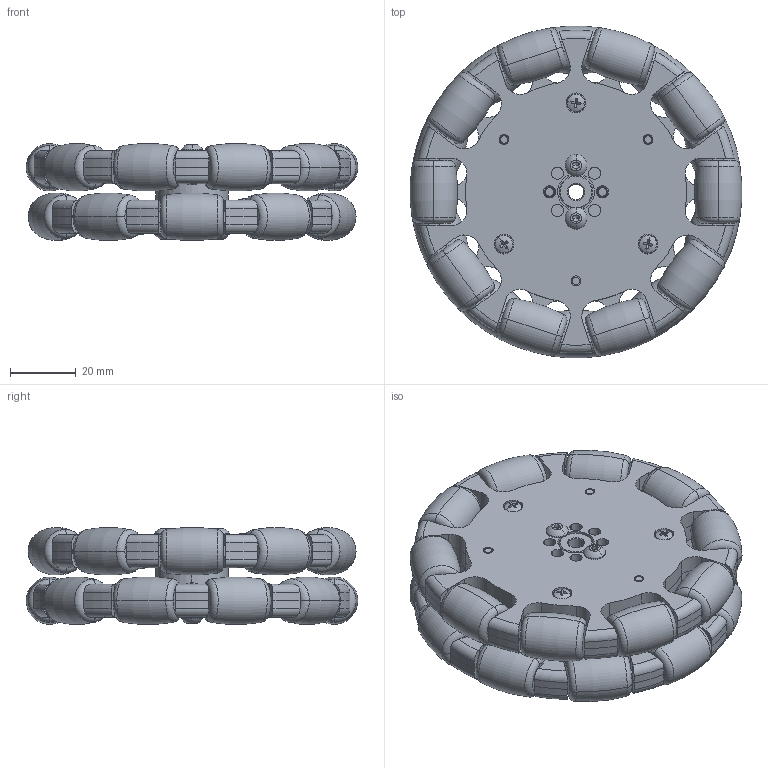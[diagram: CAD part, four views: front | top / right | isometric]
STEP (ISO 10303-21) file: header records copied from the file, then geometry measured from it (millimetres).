
FILE_DESCRIPTION (( 'STEP AP214' ), '1' );
FILE_NAME ('36466_TXM-4 inch Dual Omni Wheel.STEP', '2017-01-16T14:11:28', ( '' ), ( '' ), 'SwSTEP 2.0', 'SolidWorks 2016', '' );
FILE_SCHEMA (( 'AUTOMOTIVE_DESIGN' ));
Length unit declared in the file: millimetre
Products named in the file (2): 36466_TXM-4 inch Dual Omni Wheel
Bounding box: 100.57 x 100.57 x 29.32 mm (x, y, z)
Volume: 142504.7 mm3; surface area: 81687 mm2
Topology: 83 solids, 83 shells, 1824 faces, 4436 edges, 2808 vertices
Faces by surface type: plane 1112, cylinder 444, torus 184, cone 52, sphere 32
Entity records: 75419 total; most frequent: CARTESIAN_POINT 10262, DIRECTION 9564, ORIENTED_EDGE 8856, EDGE_CURVE 4428, AXIS2_PLACEMENT_3D 3390, VERTEX_POINT 2808, VECTOR 2784, LINE 2784
